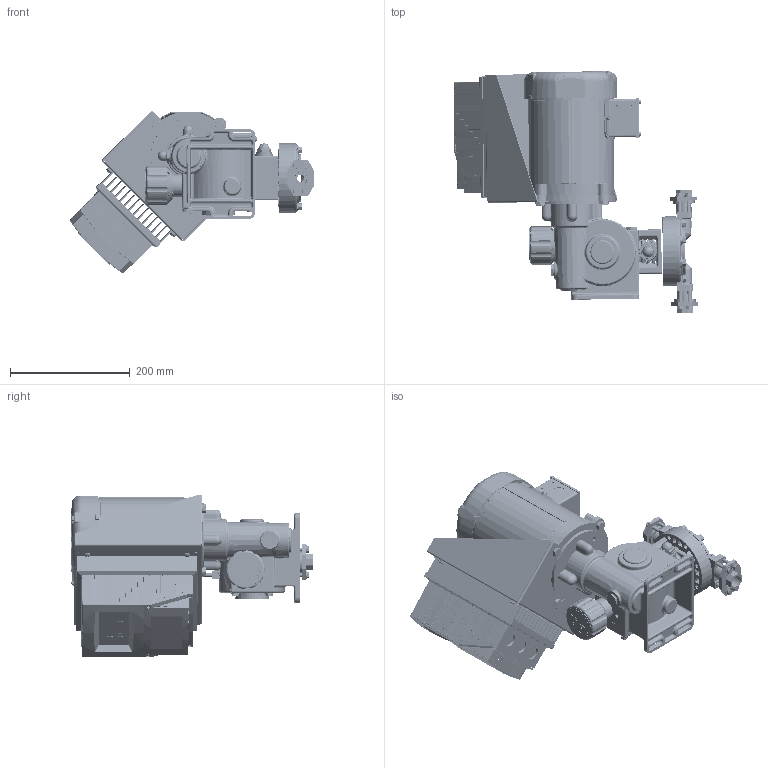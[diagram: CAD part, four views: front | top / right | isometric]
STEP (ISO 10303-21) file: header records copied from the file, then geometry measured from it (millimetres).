
FILE_DESCRIPTION (( 'STEP AP203' ), '1' );
FILE_NAME ('DM2DVAC.STEP', '2025-03-17T18:52:27', ( '' ), ( '' ), 'SwSTEP 2.0', 'SolidWorks 2023', '' );
FILE_SCHEMA (( 'CONFIG_CONTROL_DESIGN' ));
Products named in the file (1): DM2DVAC
Bounding box: 409.57 x 404.56 x 272.09 mm (x, y, z)
Surface area: 917548.7 mm2 (no closed solid volume)
Topology: 0 solids, 295 shells, 3187 faces, 15800 edges, 12449 vertices
Faces by surface type: plane 1110, cylinder 1061, bspline 513, cone 261, torus 183, sphere 59
Entity records: 216108 total; most frequent: CARTESIAN_POINT 104325, ORIENTED_EDGE 21541, DIRECTION 19823, EDGE_CURVE 15744, VERTEX_POINT 12442, AXIS2_PLACEMENT_3D 6702, VECTOR 6419, LINE 6419
